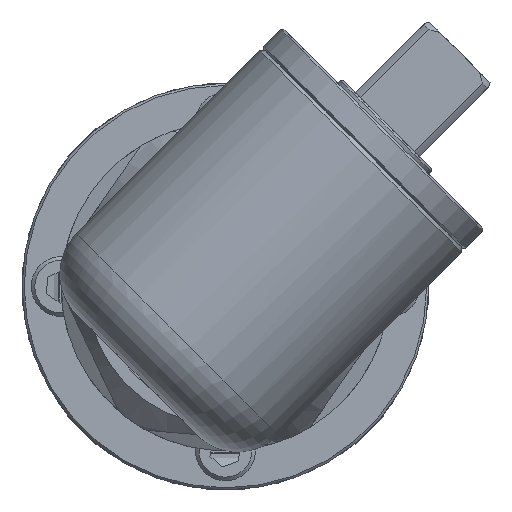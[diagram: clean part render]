
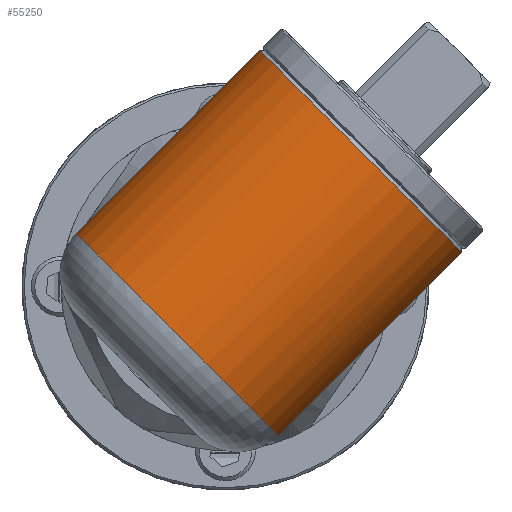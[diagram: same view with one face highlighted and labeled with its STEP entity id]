
A CAD part, left-side view. The second image highlights one B-rep face of the part: STEP entity #55250.
In plain terms, the highlighted cylindrical face has radius 20 mm (diameter 40 mm), a full revolution.
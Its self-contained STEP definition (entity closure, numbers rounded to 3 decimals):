
#245 = CYLINDRICAL_SURFACE ( 'NONE', #12244, 20. ) ;
#1962 = VERTEX_POINT ( 'NONE', #57014 ) ;
#2637 = EDGE_CURVE ( 'NONE', #49250, #49250, #86909, .T. ) ;
#3009 = ORIENTED_EDGE ( 'NONE', *, *, #2637, .T. ) ;
#3255 = EDGE_CURVE ( 'NONE', #1962, #24327, #81312, .T. ) ;
#4788 = CARTESIAN_POINT ( 'NONE',  ( -241.539, 19.597, 6.162 ) ) ;
#6274 = ORIENTED_EDGE ( 'NONE', *, *, #3255, .T. ) ;
#7551 = EDGE_CURVE ( 'NONE', #72207, #24327, #48106, .T. ) ;
#8318 = VECTOR ( 'NONE', #57291, 1000. ) ;
#9593 = CARTESIAN_POINT ( 'NONE',  ( -249.8, 6.718, -6.718 ) ) ;
#10052 = DIRECTION ( 'NONE',  ( 0., -0.707, 0.707 ) ) ;
#10862 = DIRECTION ( 'NONE',  ( 0., -0.707, -0.707 ) ) ;
#12244 = AXIS2_PLACEMENT_3D ( 'NONE', #33264, #26604, #88269 ) ;
#12773 = ORIENTED_EDGE ( 'NONE', *, *, #56916, .T. ) ;
#17104 = LINE ( 'NONE', #45165, #8318 ) ;
#17195 = ORIENTED_EDGE ( 'NONE', *, *, #7551, .F. ) ;
#23426 = DIRECTION ( 'NONE',  ( 0., -0.707, -0.707 ) ) ;
#24327 = VERTEX_POINT ( 'NONE', #69583 ) ;
#26604 = DIRECTION ( 'NONE',  ( 0., 0.707, -0.707 ) ) ;
#27483 = EDGE_LOOP ( 'NONE', ( #62747, #12773, #6274, #17195 ) ) ;
#33264 = CARTESIAN_POINT ( 'NONE',  ( -249.8, 12.374, -12.374 ) ) ;
#35129 = AXIS2_PLACEMENT_3D ( 'NONE', #9593, #10052, #23426 ) ;
#39248 = CARTESIAN_POINT ( 'NONE',  ( -241.539, 0.505, 25.254 ) ) ;
#40402 = FACE_OUTER_BOUND ( 'NONE', #48763, .T. ) ;
#45165 = CARTESIAN_POINT ( 'NONE',  ( -241.539, 25.254, 0.505 ) ) ;
#45173 = VERTEX_POINT ( 'NONE', #4788 ) ;
#45455 = DIRECTION ( 'NONE',  ( 0., 0.707, -0.707 ) ) ;
#48106 = CIRCLE ( 'NONE', #56751, 20. ) ;
#48763 = EDGE_LOOP ( 'NONE', ( #3009 ) ) ;
#49250 = VERTEX_POINT ( 'NONE', #77442 ) ;
#51452 = DIRECTION ( 'NONE',  ( 0., 0.707, -0.707 ) ) ;
#55250 = ADVANCED_FACE ( 'NONE', ( #40402, #67705 ), #245, .T. ) ;
#55505 = AXIS2_PLACEMENT_3D ( 'NONE', #71448, #45455, #67147 ) ;
#56751 = AXIS2_PLACEMENT_3D ( 'NONE', #85472, #51452, #10862 ) ;
#56916 = EDGE_CURVE ( 'NONE', #45173, #1962, #65188, .T. ) ;
#57014 = CARTESIAN_POINT ( 'NONE',  ( -241.539, -6.162, -19.597 ) ) ;
#57291 = DIRECTION ( 'NONE',  ( 0., 0.707, -0.707 ) ) ;
#61638 = CARTESIAN_POINT ( 'NONE',  ( -241.539, -0.505, -25.254 ) ) ;
#62747 = ORIENTED_EDGE ( 'NONE', *, *, #70884, .T. ) ;
#65188 = CIRCLE ( 'NONE', #35129, 20. ) ;
#67147 = DIRECTION ( 'NONE',  ( 0., 0.707, 0.707 ) ) ;
#67705 = FACE_OUTER_BOUND ( 'NONE', #27483, .T. ) ;
#69583 = CARTESIAN_POINT ( 'NONE',  ( -241.539, -25.254, -0.505 ) ) ;
#70884 = EDGE_CURVE ( 'NONE', #72207, #45173, #17104, .T. ) ;
#71448 = CARTESIAN_POINT ( 'NONE',  ( -249.8, -18.95, 18.95 ) ) ;
#72207 = VERTEX_POINT ( 'NONE', #39248 ) ;
#75514 = DIRECTION ( 'NONE',  ( 0., -0.707, 0.707 ) ) ;
#77442 = CARTESIAN_POINT ( 'NONE',  ( -249.8, -4.808, 33.093 ) ) ;
#81312 = LINE ( 'NONE', #61638, #82712 ) ;
#82712 = VECTOR ( 'NONE', #75514, 1000. ) ;
#85472 = CARTESIAN_POINT ( 'NONE',  ( -249.8, -12.374, 12.374 ) ) ;
#86909 = CIRCLE ( 'NONE', #55505, 20. ) ;
#88269 = DIRECTION ( 'NONE',  ( 0., 0.707, 0.707 ) ) ;
